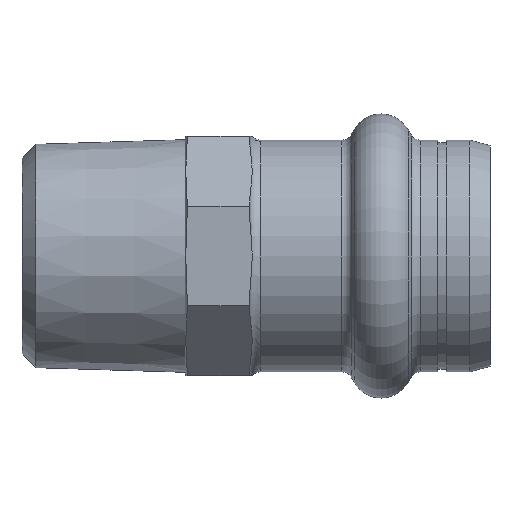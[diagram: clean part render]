
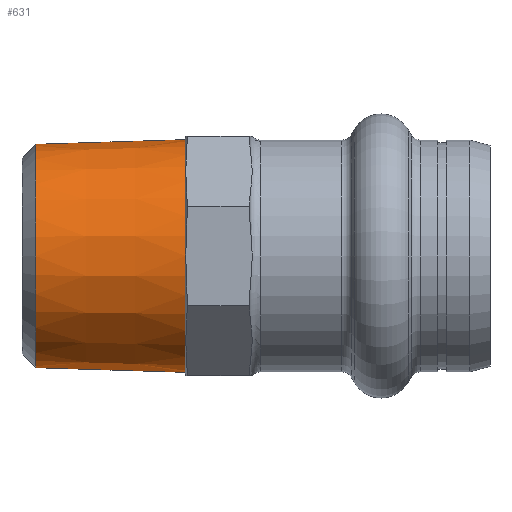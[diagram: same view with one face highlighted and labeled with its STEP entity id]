
A CAD part, left-side view. The second image highlights one B-rep face of the part: STEP entity #631.
In plain terms, the highlighted conical face has half-angle 1.78 degrees and reference radius 10.689 mm.
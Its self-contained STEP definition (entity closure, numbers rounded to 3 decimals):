
#148 = CARTESIAN_POINT ( 'NONE',  ( 0., 41.738, 0. ) ) ;
#161 = DIRECTION ( 'NONE',  ( 0., -1., 0. ) ) ;
#167 = DIRECTION ( 'NONE',  ( 0., 0., -1. ) ) ;
#229 = EDGE_CURVE ( 'NONE', #1354, #820, #652, .T. ) ;
#252 = LINE ( 'NONE', #1629, #1494 ) ;
#406 = AXIS2_PLACEMENT_3D ( 'NONE', #1693, #662, #831 ) ;
#447 = ORIENTED_EDGE ( 'NONE', *, *, #554, .T. ) ;
#475 = AXIS2_PLACEMENT_3D ( 'NONE', #148, #161, #167 ) ;
#477 = CARTESIAN_POINT ( 'NONE',  ( 0., 28., 0. ) ) ;
#503 = CARTESIAN_POINT ( 'NONE',  ( 0., 41.738, 10.262 ) ) ;
#515 = DIRECTION ( 'NONE',  ( 0., -1., 0. ) ) ;
#517 = DIRECTION ( 'NONE',  ( 0., 0., -1. ) ) ;
#554 = EDGE_CURVE ( 'NONE', #953, #1793, #1821, .T. ) ;
#561 = FACE_OUTER_BOUND ( 'NONE', #1531, .T. ) ;
#631 = ADVANCED_FACE ( 'NONE', ( #561 ), #1690, .T. ) ;
#634 = LINE ( 'NONE', #1669, #1437 ) ;
#652 = CIRCLE ( 'NONE', #406, 10.689 ) ;
#662 = DIRECTION ( 'NONE',  ( 0., -1., 0. ) ) ;
#820 = VERTEX_POINT ( 'NONE', #1588 ) ;
#831 = DIRECTION ( 'NONE',  ( 0., 0., -1. ) ) ;
#911 = CARTESIAN_POINT ( 'NONE',  ( 0., 28., 10.689 ) ) ;
#953 = VERTEX_POINT ( 'NONE', #503 ) ;
#1118 = ORIENTED_EDGE ( 'NONE', *, *, #1513, .F. ) ;
#1158 = CARTESIAN_POINT ( 'NONE',  ( 0., 41.738, -10.262 ) ) ;
#1354 = VERTEX_POINT ( 'NONE', #911 ) ;
#1437 = VECTOR ( 'NONE', #1533, 1000. ) ;
#1446 = AXIS2_PLACEMENT_3D ( 'NONE', #477, #515, #517 ) ;
#1494 = VECTOR ( 'NONE', #1781, 1000. ) ;
#1513 = EDGE_CURVE ( 'NONE', #953, #1354, #634, .T. ) ;
#1531 = EDGE_LOOP ( 'NONE', ( #1118, #447, #1603, #1876 ) ) ;
#1533 = DIRECTION ( 'NONE',  ( 0., -1., 0.031 ) ) ;
#1588 = CARTESIAN_POINT ( 'NONE',  ( 0., 28., -10.689 ) ) ;
#1603 = ORIENTED_EDGE ( 'NONE', *, *, #1825, .T. ) ;
#1629 = CARTESIAN_POINT ( 'NONE',  ( 0., 28., -10.689 ) ) ;
#1669 = CARTESIAN_POINT ( 'NONE',  ( 0., 28., 10.689 ) ) ;
#1690 = CONICAL_SURFACE ( 'NONE', #1446, 10.689, 0.031 ) ;
#1693 = CARTESIAN_POINT ( 'NONE',  ( 0., 28., 0. ) ) ;
#1781 = DIRECTION ( 'NONE',  ( 0., -1., -0.031 ) ) ;
#1793 = VERTEX_POINT ( 'NONE', #1158 ) ;
#1821 = CIRCLE ( 'NONE', #475, 10.262 ) ;
#1825 = EDGE_CURVE ( 'NONE', #1793, #820, #252, .T. ) ;
#1876 = ORIENTED_EDGE ( 'NONE', *, *, #229, .F. ) ;
